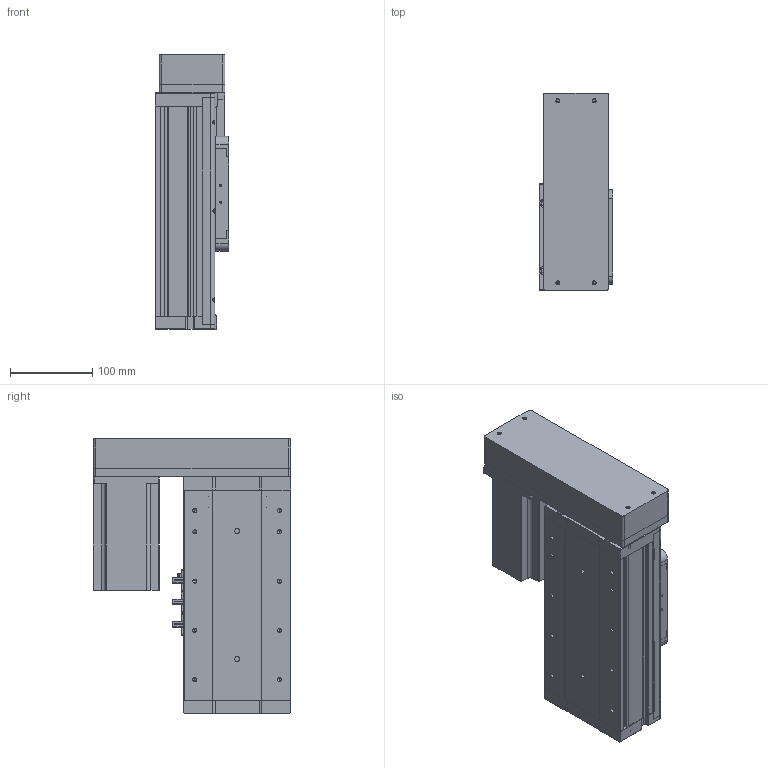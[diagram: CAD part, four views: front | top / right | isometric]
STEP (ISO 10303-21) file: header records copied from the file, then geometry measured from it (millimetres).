
FILE_DESCRIPTION (( 'STEP AP203' ), '1' );
FILE_NAME ('KSD130S-P2010-ML-CR-S50.STEP', '2019-09-24T03:31:26', ( '微软用户' ), ( '微软中国' ), 'SwSTEP 2.0', 'SolidWorks 2014', '' );
FILE_SCHEMA (( 'CONFIG_CONTROL_DESIGN' ));
Length unit declared in the file: millimetre
Products named in the file (15): 130宽盖板全封闭-50行程; 130遵裔啣揤啣1; 130宽底板全封闭丝杠-50行程; U倰嫖萇EEㄜSX672; 130宽全封闭端盖丝杠; 感应片130宽全封闭; 130宽全封闭马达安装板丝杠; 130宽模组马达安装板连板左右折丝杆; 130宽侧板全封闭-50行程; 台达ECMA－C20807AS伺服电机; 130宽滚珠螺姆安装板1; 130宽模组保护罩左右折; 130宽滚珠螺姆安装板1防护罩; KSD130S-P2010-ML-CR-S50; BK15盓傅釱杶
Assembly tree (18 placements, depth 2):
  KSD130S-P2010-ML-CR-S50
    130宽底板全封闭丝杠-50行程
    130宽全封闭端盖丝杠
    130宽全封闭马达安装板丝杠
    130宽侧板全封闭-50行程  x2
    130宽滚珠螺姆安装板1
    130宽滚珠螺姆安装板1防护罩
    BK15盓傅釱杶
    130宽盖板全封闭-50行程
    130遵裔啣揤啣1  x2
    U倰嫖萇EEㄜSX672  x3
    感应片130宽全封闭
    130宽模组马达安装板连板左右折丝杆
    台达ECMA－C20807AS伺服电机
    130宽模组保护罩左右折
Bounding box: 90 x 240 x 334.5 mm (x, y, z)
Volume: 2225782.2 mm3; surface area: 610795.2 mm2
Topology: 19 solids, 19 shells, 1421 faces, 3876 edges, 2471 vertices
Faces by surface type: plane 634, cylinder 616, cone 171
Entity records: 38452 total; most frequent: DIRECTION 6551, CARTESIAN_POINT 6507, ORIENTED_EDGE 6118, EDGE_CURVE 3059, AXIS2_PLACEMENT_3D 2331, VERTEX_POINT 2001, LINE 1889, VECTOR 1889
